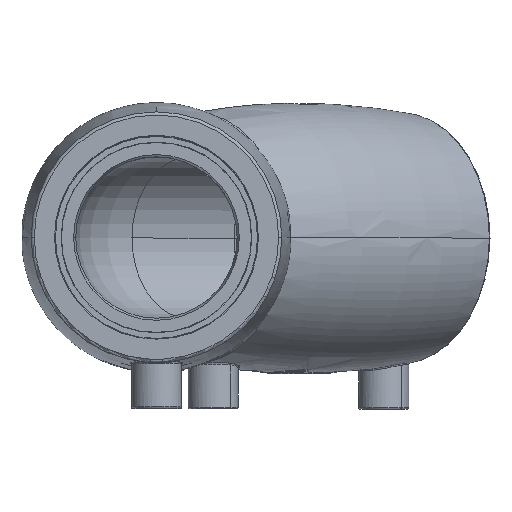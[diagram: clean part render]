
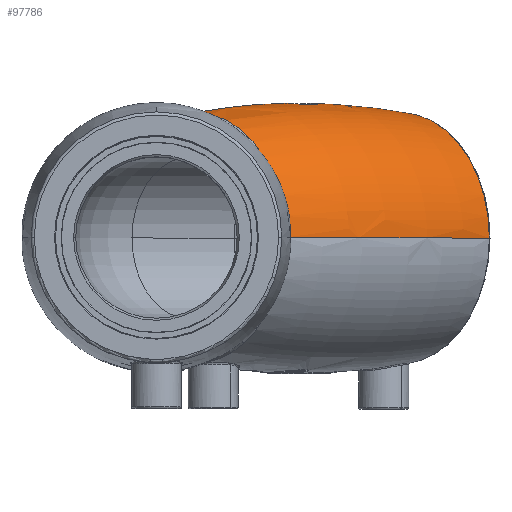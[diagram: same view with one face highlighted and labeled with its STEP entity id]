
A CAD part, top view. The second image highlights one B-rep face of the part: STEP entity #97786.
In plain terms, the highlighted toroidal (fillet/blend) face has major radius 307.5 mm and minor radius 350 mm.
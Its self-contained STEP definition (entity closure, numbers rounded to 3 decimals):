
#1232 = CARTESIAN_POINT ( 'NONE',  ( 50.068, 42.425, -48.059 ) ) ;
#1662 = CARTESIAN_POINT ( 'NONE',  ( 50.938, 42.304, -45.715 ) ) ;
#2072 = CARTESIAN_POINT ( 'NONE',  ( 50.68, 42.366, -46.764 ) ) ;
#3338 = DIRECTION ( 'NONE',  ( -0.707, 0., 0.707 ) ) ;
#4835 = VERTEX_POINT ( 'NONE', #126891 ) ;
#4981 = DIRECTION ( 'NONE',  ( -0.707, 0., -0.707 ) ) ;
#6207 = CARTESIAN_POINT ( 'NONE',  ( 44.5, 42.258, -38.497 ) ) ;
#6845 = EDGE_CURVE ( 'NONE', #119188, #74456, #124292, .T. ) ;
#7354 = DIRECTION ( 'NONE',  ( 0., -1., 0. ) ) ;
#9105 = VERTEX_POINT ( 'NONE', #98092 ) ;
#10716 = CARTESIAN_POINT ( 'NONE',  ( 50.9, 42.166, -43.574 ) ) ;
#11993 = CARTESIAN_POINT ( 'NONE',  ( 49.171, 42.444, -49.171 ) ) ;
#12070 = EDGE_CURVE ( 'NONE', #19348, #88811, #53997, .T. ) ;
#12408 = CARTESIAN_POINT ( 'NONE',  ( 50.251, 42.413, -47.744 ) ) ;
#14016 = CARTESIAN_POINT ( 'NONE',  ( 44.752, 0., -44.752 ) ) ;
#14827 = CARTESIAN_POINT ( 'NONE',  ( 43.434, 42.326, -38.632 ) ) ;
#16101 = CARTESIAN_POINT ( 'NONE',  ( 42.741, 42.366, -38.823 ) ) ;
#16762 = CARTESIAN_POINT ( 'NONE',  ( 49.199, 42.033, -40.305 ) ) ;
#16790 = DIRECTION ( 'NONE',  ( -0.707, 0., 0.707 ) ) ;
#18936 = ORIENTED_EDGE ( 'NONE', *, *, #12070, .T. ) ;
#19348 = VERTEX_POINT ( 'NONE', #28157 ) ;
#21078 = CARTESIAN_POINT ( 'NONE',  ( 50.958, 42.188, -43.932 ) ) ;
#21949 = CARTESIAN_POINT ( 'NONE',  ( 51.011, 42.235, -44.648 ) ) ;
#22372 = CARTESIAN_POINT ( 'NONE',  ( 50.61, 42.106, -42.544 ) ) ;
#25105 = DIRECTION ( 'NONE',  ( 0.707, 0., -0.707 ) ) ;
#26158 = ORIENTED_EDGE ( 'NONE', *, *, #51956, .F. ) ;
#27147 = CARTESIAN_POINT ( 'NONE',  ( 49.944, 42.053, -41.272 ) ) ;
#28157 = CARTESIAN_POINT ( 'NONE',  ( 104.957, 0., -49.078 ) ) ;
#31866 = CARTESIAN_POINT ( 'NONE',  ( 50.872, 42.326, -46.072 ) ) ;
#35429 = B_SPLINE_CURVE_WITH_KNOTS ( 'NONE', 3,
 ( #93764, #114455, #45069, #95068, #95505, #73837, #16101, #14827, #55747, #6207, #64394, #104979, #63939, #45905, #124803, #124376, #104106, #46342 ),
 .UNSPECIFIED., .F., .F.,
 ( 4, 2, 2, 2, 2, 2, 2, 2, 4 ),
 ( 0.001, 0.002, 0.003, 0.004, 0.005, 0.006, 0.007, 0.008, 0.009 ),
 .UNSPECIFIED. ) ;
#35751 = DIRECTION ( 'NONE',  ( -0.707, 0., -0.707 ) ) ;
#36639 = CARTESIAN_POINT ( 'NONE',  ( 49.715, 42.043, -40.931 ) ) ;
#37148 = DIRECTION ( 'NONE',  ( 1., 0., 0. ) ) ;
#38956 = CARTESIAN_POINT ( 'NONE',  ( 77.018, 39.513, -77.018 ) ) ;
#39458 = CARTESIAN_POINT ( 'NONE',  ( 49.171, 42.444, -49.171 ) ) ;
#41364 = CARTESIAN_POINT ( 'NONE',  ( 50.318, 42.075, -41.886 ) ) ;
#41527 = AXIS2_PLACEMENT_3D ( 'NONE', #65993, #7354, #37148 ) ;
#41781 = CARTESIAN_POINT ( 'NONE',  ( 49.654, 42.44, -48.646 ) ) ;
#42593 = CARTESIAN_POINT ( 'NONE',  ( 77.018, 0., -77.018 ) ) ;
#44450 = CARTESIAN_POINT ( 'NONE',  ( 12.486, 39.513, -12.486 ) ) ;
#45069 = CARTESIAN_POINT ( 'NONE',  ( 40.859, 42.44, -39.85 ) ) ;
#45905 = CARTESIAN_POINT ( 'NONE',  ( 46.623, 42.125, -38.778 ) ) ;
#46024 = VERTEX_POINT ( 'NONE', #123325 ) ;
#46342 = CARTESIAN_POINT ( 'NONE',  ( 48.232, 42.053, -39.56 ) ) ;
#51112 = ORIENTED_EDGE ( 'NONE', *, *, #120947, .F. ) ;
#51688 = CARTESIAN_POINT ( 'NONE',  ( 50.143, 42.062, -41.569 ) ) ;
#51956 = EDGE_CURVE ( 'NONE', #19348, #4835, #75655, .T. ) ;
#53997 = CIRCLE ( 'NONE', #124108, 39.513 ) ;
#55747 = CARTESIAN_POINT ( 'NONE',  ( 43.79, 42.303, -38.566 ) ) ;
#58200 = ORIENTED_EDGE ( 'NONE', *, *, #90679, .T. ) ;
#60269 = ORIENTED_EDGE ( 'NONE', *, *, #95983, .F. ) ;
#61878 = CIRCLE ( 'NONE', #67583, 39.513 ) ;
#63939 = CARTESIAN_POINT ( 'NONE',  ( 45.931, 42.166, -38.604 ) ) ;
#64394 = CARTESIAN_POINT ( 'NONE',  ( 44.857, 42.235, -38.493 ) ) ;
#65993 = CARTESIAN_POINT ( 'NONE',  ( -172.683, 0., -262.187 ) ) ;
#67583 = AXIS2_PLACEMENT_3D ( 'NONE', #74129, #25105, #85369 ) ;
#70418 = B_SPLINE_CURVE_WITH_KNOTS ( 'NONE', 3,
 ( #109484, #51688, #41364, #22372, #119832, #10716, #21078, #21949, #99572, #1662, #31866, #2072, #90926, #12408, #1232, #41781, #79667, #11993 ),
 .UNSPECIFIED., .F., .F.,
 ( 4, 2, 2, 2, 2, 2, 2, 2, 4 ),
 ( 0.012, 0.013, 0.014, 0.015, 0.016, 0.017, 0.018, 0.019, 0.02 ),
 .UNSPECIFIED. ) ;
#70962 = FACE_OUTER_BOUND ( 'NONE', #112061, .T. ) ;
#71224 = DIRECTION ( 'NONE',  ( 0.707, 0., 0.707 ) ) ;
#73837 = CARTESIAN_POINT ( 'NONE',  ( 42.407, 42.383, -38.948 ) ) ;
#74129 = CARTESIAN_POINT ( 'NONE',  ( 12.486, 0., -12.486 ) ) ;
#74456 = VERTEX_POINT ( 'NONE', #44450 ) ;
#75126 = EDGE_CURVE ( 'NONE', #119188, #46024, #35429, .T. ) ;
#75655 = CIRCLE ( 'NONE', #41527, 350. ) ;
#75875 = EDGE_CURVE ( 'NONE', #74456, #4835, #61878, .T. ) ;
#76203 = CARTESIAN_POINT ( 'NONE',  ( 48.573, 42.043, -39.789 ) ) ;
#77179 = TOROIDAL_SURFACE ( 'NONE', #102418, -307.5, 350. ) ;
#78189 = ORIENTED_EDGE ( 'NONE', *, *, #75126, .F. ) ;
#79667 = CARTESIAN_POINT ( 'NONE',  ( 49.424, 42.444, -48.919 ) ) ;
#80260 = AXIS2_PLACEMENT_3D ( 'NONE', #125470, #86179, #16790 ) ;
#83014 = DIRECTION ( 'NONE',  ( -0.707, 0., 0.707 ) ) ;
#85369 = DIRECTION ( 'NONE',  ( 0.707, 0., 0.707 ) ) ;
#86179 = DIRECTION ( 'NONE',  ( 0.707, 0., 0.707 ) ) ;
#87005 = ORIENTED_EDGE ( 'NONE', *, *, #6845, .T. ) ;
#88811 = VERTEX_POINT ( 'NONE', #38956 ) ;
#90679 = EDGE_CURVE ( 'NONE', #88811, #99771, #122126, .T. ) ;
#90926 = CARTESIAN_POINT ( 'NONE',  ( 50.556, 42.383, -47.098 ) ) ;
#91087 = ORIENTED_EDGE ( 'NONE', *, *, #75875, .T. ) ;
#93764 = CARTESIAN_POINT ( 'NONE',  ( 40.333, 42.444, -40.333 ) ) ;
#95068 = CARTESIAN_POINT ( 'NONE',  ( 41.447, 42.425, -39.435 ) ) ;
#95505 = CARTESIAN_POINT ( 'NONE',  ( 41.761, 42.413, -39.253 ) ) ;
#95983 = EDGE_CURVE ( 'NONE', #9105, #99771, #70418, .T. ) ;
#97786 = ADVANCED_FACE ( 'NONE', ( #70962 ), #77179, .T. ) ;
#98092 = CARTESIAN_POINT ( 'NONE',  ( 49.944, 42.053, -41.272 ) ) ;
#98820 = AXIS2_PLACEMENT_3D ( 'NONE', #111403, #71224, #100639 ) ;
#99572 = CARTESIAN_POINT ( 'NONE',  ( 51.007, 42.258, -45.004 ) ) ;
#99771 = VERTEX_POINT ( 'NONE', #39458 ) ;
#100639 = DIRECTION ( 'NONE',  ( -0.707, 0., 0.707 ) ) ;
#102418 = AXIS2_PLACEMENT_3D ( 'NONE', #14016, #83014, #4981 ) ;
#104106 = CARTESIAN_POINT ( 'NONE',  ( 47.935, 42.062, -39.362 ) ) ;
#104979 = CARTESIAN_POINT ( 'NONE',  ( 45.574, 42.188, -38.546 ) ) ;
#109484 = CARTESIAN_POINT ( 'NONE',  ( 49.944, 42.053, -41.272 ) ) ;
#111403 = CARTESIAN_POINT ( 'NONE',  ( 44.752, -307.5, -44.752 ) ) ;
#112061 = EDGE_LOOP ( 'NONE', ( #26158, #18936, #58200, #60269, #51112, #78189, #87005, #91087 ) ) ;
#114455 = CARTESIAN_POINT ( 'NONE',  ( 40.585, 42.444, -40.08 ) ) ;
#115530 = CARTESIAN_POINT ( 'NONE',  ( 48.232, 42.053, -39.56 ) ) ;
#119188 = VERTEX_POINT ( 'NONE', #123875 ) ;
#119832 = CARTESIAN_POINT ( 'NONE',  ( 50.726, 42.125, -42.882 ) ) ;
#120947 = EDGE_CURVE ( 'NONE', #46024, #9105, #126378, .T. ) ;
#122126 = CIRCLE ( 'NONE', #80260, 350. ) ;
#123325 = CARTESIAN_POINT ( 'NONE',  ( 48.232, 42.053, -39.56 ) ) ;
#123875 = CARTESIAN_POINT ( 'NONE',  ( 40.333, 42.444, -40.333 ) ) ;
#124108 = AXIS2_PLACEMENT_3D ( 'NONE', #42593, #3338, #35751 ) ;
#124292 = CIRCLE ( 'NONE', #98820, 350. ) ;
#124376 = CARTESIAN_POINT ( 'NONE',  ( 47.619, 42.075, -39.187 ) ) ;
#124803 = CARTESIAN_POINT ( 'NONE',  ( 46.96, 42.106, -38.894 ) ) ;
#125470 = CARTESIAN_POINT ( 'NONE',  ( 44.752, -307.5, -44.752 ) ) ;
#126378 = B_SPLINE_CURVE_WITH_KNOTS ( 'NONE', 3,
 ( #115530, #76203, #16762, #36639, #27147 ),
 .UNSPECIFIED., .F., .F.,
 ( 4, 1, 4 ),
 ( 0., 0.001, 0.002 ),
 .UNSPECIFIED. ) ;
#126891 = CARTESIAN_POINT ( 'NONE',  ( 40.426, 0., 15.453 ) ) ;
